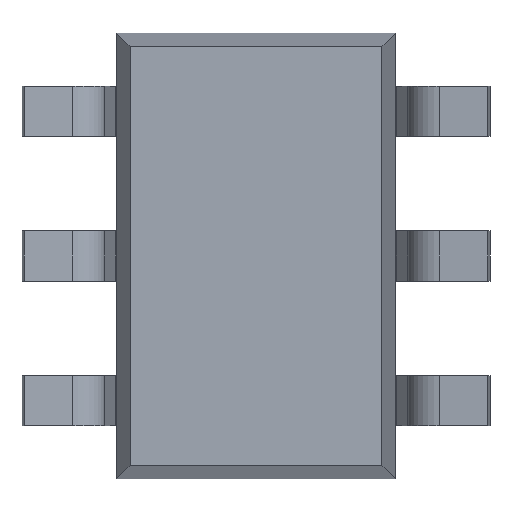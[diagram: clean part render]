
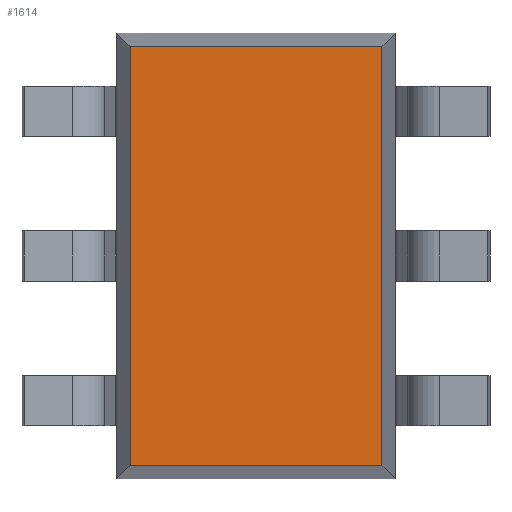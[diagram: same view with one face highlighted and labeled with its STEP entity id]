
A CAD part, front view. The second image highlights one B-rep face of the part: STEP entity #1614.
In plain terms, the highlighted planar face has unit normal (0, -1, 0).
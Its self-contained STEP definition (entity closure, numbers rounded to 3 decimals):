
#103 = EDGE_CURVE ( 'NONE', #1047, #759, #2510, .T. ) ;
#171 = ORIENTED_EDGE ( 'NONE', *, *, #370, .T. ) ;
#274 = DIRECTION ( 'NONE',  ( 0., 0., 1. ) ) ;
#370 = EDGE_CURVE ( 'NONE', #1994, #2299, #1749, .T. ) ;
#467 = CARTESIAN_POINT ( 'NONE',  ( -0.565, 0.1, -0.94 ) ) ;
#563 = VECTOR ( 'NONE', #274, 1000. ) ;
#589 = ORIENTED_EDGE ( 'NONE', *, *, #103, .T. ) ;
#695 = PLANE ( 'NONE',  #2370 ) ;
#723 = DIRECTION ( 'NONE',  ( 0., 0., -1. ) ) ;
#732 = CARTESIAN_POINT ( 'NONE',  ( 0., 0.1, 0. ) ) ;
#759 = VERTEX_POINT ( 'NONE', #2526 ) ;
#793 = VECTOR ( 'NONE', #2615, 1000. ) ;
#904 = DIRECTION ( 'NONE',  ( 1., 0., 0. ) ) ;
#926 = CARTESIAN_POINT ( 'NONE',  ( 0.565, 0.1, -1. ) ) ;
#938 = LINE ( 'NONE', #1105, #793 ) ;
#1037 = VECTOR ( 'NONE', #1667, 1000. ) ;
#1047 = VERTEX_POINT ( 'NONE', #1705 ) ;
#1105 = CARTESIAN_POINT ( 'NONE',  ( -0.565, 0.1, 1. ) ) ;
#1587 = LINE ( 'NONE', #926, #563 ) ;
#1614 = ADVANCED_FACE ( 'NONE', ( #1995 ), #695, .T. ) ;
#1644 = EDGE_CURVE ( 'NONE', #2299, #1047, #1587, .T. ) ;
#1667 = DIRECTION ( 'NONE',  ( -1., 0., 0. ) ) ;
#1705 = CARTESIAN_POINT ( 'NONE',  ( 0.565, 0.1, 0.94 ) ) ;
#1749 = LINE ( 'NONE', #2800, #2795 ) ;
#1845 = CARTESIAN_POINT ( 'NONE',  ( 0.625, 0.1, 0.94 ) ) ;
#1981 = EDGE_CURVE ( 'NONE', #759, #1994, #938, .T. ) ;
#1994 = VERTEX_POINT ( 'NONE', #467 ) ;
#1995 = FACE_OUTER_BOUND ( 'NONE', #2174, .T. ) ;
#2068 = CARTESIAN_POINT ( 'NONE',  ( 0.565, 0.1, -0.94 ) ) ;
#2174 = EDGE_LOOP ( 'NONE', ( #171, #2186, #589, #2320 ) ) ;
#2186 = ORIENTED_EDGE ( 'NONE', *, *, #1644, .T. ) ;
#2299 = VERTEX_POINT ( 'NONE', #2068 ) ;
#2320 = ORIENTED_EDGE ( 'NONE', *, *, #1981, .T. ) ;
#2370 = AXIS2_PLACEMENT_3D ( 'NONE', #732, #2663, #723 ) ;
#2510 = LINE ( 'NONE', #1845, #1037 ) ;
#2526 = CARTESIAN_POINT ( 'NONE',  ( -0.565, 0.1, 0.94 ) ) ;
#2615 = DIRECTION ( 'NONE',  ( 0., 0., -1. ) ) ;
#2663 = DIRECTION ( 'NONE',  ( 0., -1., 0. ) ) ;
#2795 = VECTOR ( 'NONE', #904, 1000. ) ;
#2800 = CARTESIAN_POINT ( 'NONE',  ( -0.625, 0.1, -0.94 ) ) ;
